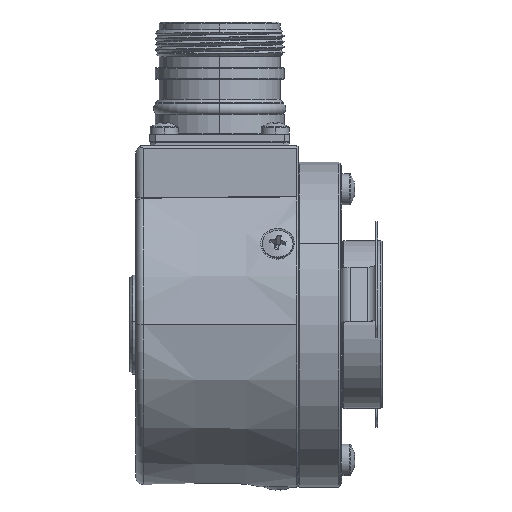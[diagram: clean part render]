
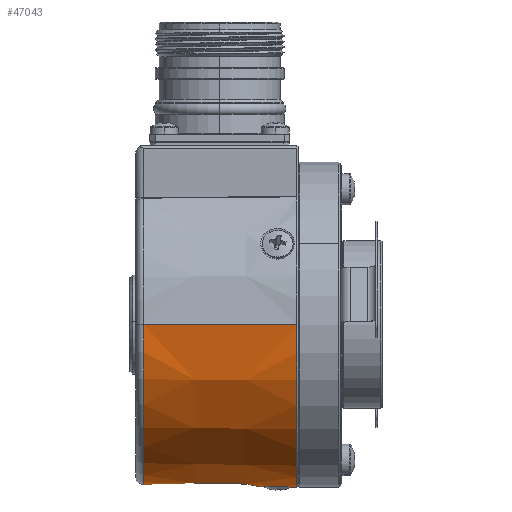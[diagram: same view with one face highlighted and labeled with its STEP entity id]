
A CAD part, left-side view. The second image highlights one B-rep face of the part: STEP entity #47043.
In plain terms, the highlighted conical face has half-angle 1 degrees and reference radius 28.565 mm.
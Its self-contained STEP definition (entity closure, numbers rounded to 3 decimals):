
#933 = EDGE_CURVE ( 'NONE', #23986, #3149, #32852, .T. ) ;
#1773 = VERTEX_POINT ( 'NONE', #10713 ) ;
#2409 = CARTESIAN_POINT ( 'NONE',  ( -2.115, 5.932, -28.891 ) ) ;
#2468 = ORIENTED_EDGE ( 'NONE', *, *, #16004, .T. ) ;
#2511 = CARTESIAN_POINT ( 'NONE',  ( 0., 29., 0. ) ) ;
#3099 = CARTESIAN_POINT ( 'NONE',  ( -1.613, 6.282, -28.917 ) ) ;
#3149 = VERTEX_POINT ( 'NONE', #60185 ) ;
#3430 = CARTESIAN_POINT ( 'NONE',  ( 0.998, 6.569, -28.942 ) ) ;
#3760 = AXIS2_PLACEMENT_3D ( 'NONE', #21811, #58587, #48194 ) ;
#3976 = CARTESIAN_POINT ( 'NONE',  ( 0.441, 0.674, -29.057 ) ) ;
#4656 = CARTESIAN_POINT ( 'NONE',  ( 3.189, 3.494, -28.834 ) ) ;
#7646 = FACE_BOUND ( 'NONE', #8154, .T. ) ;
#7890 = CARTESIAN_POINT ( 'NONE',  ( -3.059, 2.863, -28.86 ) ) ;
#8154 = EDGE_LOOP ( 'NONE', ( #26032, #58170 ) ) ;
#8754 = CARTESIAN_POINT ( 'NONE',  ( 2.404, 1.696, -28.942 ) ) ;
#8896 = CARTESIAN_POINT ( 'NONE',  ( -2.834, 2.308, -28.892 ) ) ;
#9099 = CARTESIAN_POINT ( 'NONE',  ( 1.053, 0.796, -29.041 ) ) ;
#9281 = CARTESIAN_POINT ( 'NONE',  ( 1.738, 6.2, -28.911 ) ) ;
#9450 = CARTESIAN_POINT ( 'NONE',  ( 3.187, 3.897, -28.828 ) ) ;
#9789 = CARTESIAN_POINT ( 'NONE',  ( -1.563, 1.038, -29.012 ) ) ;
#10118 = CARTESIAN_POINT ( 'NONE',  ( 3.073, 2.911, -28.857 ) ) ;
#10713 = CARTESIAN_POINT ( 'NONE',  ( -1.737, 1.146, -28.999 ) ) ;
#11771 = AXIS2_PLACEMENT_3D ( 'NONE', #54599, #27937, #12253 ) ;
#12253 = DIRECTION ( 'NONE',  ( 1., 0., 0. ) ) ;
#13031 = CARTESIAN_POINT ( 'NONE',  ( -2.085, 1.364, -28.975 ) ) ;
#13590 = CIRCLE ( 'NONE', #3760, 28.591 ) ;
#14318 = CARTESIAN_POINT ( 'NONE',  ( 29.068, 0.197, 0. ) ) ;
#14413 = CARTESIAN_POINT ( 'NONE',  ( -2.997, 2.673, -28.87 ) ) ;
#14529 = AXIS2_PLACEMENT_3D ( 'NONE', #2511, #33589, #60620 ) ;
#14599 = CARTESIAN_POINT ( 'NONE',  ( -0.997, 0.798, -29.041 ) ) ;
#14946 = CARTESIAN_POINT ( 'NONE',  ( -0.796, 0.742, -29.048 ) ) ;
#16004 = EDGE_CURVE ( 'NONE', #48041, #23986, #19661, .T. ) ;
#16743 = B_SPLINE_CURVE_WITH_KNOTS ( 'NONE', 3,
 ( #67260, #9789, #30934, #14599, #14946, #42028, #56594, #25386, #3976, #9099, #51390, #25730, #47230, #8754, #41330, #67944, #25036, #19819, #10118, #4656, #9450, #20499, #68275, #31265, #51034, #46870, #46197, #29908, #40989, #20845 ),
 .UNSPECIFIED., .F., .F.,
 ( 4, 2, 2, 2, 2, 2, 2, 2, 2, 2, 2, 2, 2, 2, 4 ),
 ( 0.998, 1.029, 1.06, 1.092, 1.123, 1.185, 1.217, 1.248, 1.279, 1.31, 1.373, 1.404, 1.435, 1.467, 1.498 ),
 .UNSPECIFIED. ) ;
#18266 = CARTESIAN_POINT ( 'NONE',  ( 1.389, 6.418, -28.928 ) ) ;
#18664 = EDGE_CURVE ( 'NONE', #25274, #3149, #55440, .T. ) ;
#18788 = ORIENTED_EDGE ( 'NONE', *, *, #18664, .F. ) ;
#19639 = CARTESIAN_POINT ( 'NONE',  ( -1.957, 6.058, -28.9 ) ) ;
#19661 = LINE ( 'NONE', #29400, #52339 ) ;
#19819 = CARTESIAN_POINT ( 'NONE',  ( 3.014, 2.723, -28.867 ) ) ;
#19955 = DIRECTION ( 'NONE',  ( -0.017, -1., 0. ) ) ;
#20499 = CARTESIAN_POINT ( 'NONE',  ( 3.06, 4.481, -28.831 ) ) ;
#20845 = CARTESIAN_POINT ( 'NONE',  ( 1.738, 6.2, -28.911 ) ) ;
#21811 = CARTESIAN_POINT ( 'NONE',  ( 0., 27.526, 0. ) ) ;
#22814 = EDGE_CURVE ( 'NONE', #25274, #48041, #13590, .T. ) ;
#23133 = CARTESIAN_POINT ( 'NONE',  ( 28.591, 27.526, 0. ) ) ;
#23790 = CARTESIAN_POINT ( 'NONE',  ( 0.183, 6.716, -28.956 ) ) ;
#23986 = VERTEX_POINT ( 'NONE', #14318 ) ;
#24118 = CARTESIAN_POINT ( 'NONE',  ( -3.151, 4.041, -28.829 ) ) ;
#25036 = CARTESIAN_POINT ( 'NONE',  ( 2.858, 2.355, -28.889 ) ) ;
#25274 = VERTEX_POINT ( 'NONE', #55907 ) ;
#25386 = CARTESIAN_POINT ( 'NONE',  ( 0.233, 0.653, -29.06 ) ) ;
#25730 = CARTESIAN_POINT ( 'NONE',  ( 1.953, 1.286, -28.984 ) ) ;
#26032 = ORIENTED_EDGE ( 'NONE', *, *, #46838, .T. ) ;
#27937 = DIRECTION ( 'NONE',  ( 0., 1., 0. ) ) ;
#28660 = CARTESIAN_POINT ( 'NONE',  ( -1.048, 6.532, -28.939 ) ) ;
#29400 = CARTESIAN_POINT ( 'NONE',  ( 28.565, 29., 0. ) ) ;
#29908 = CARTESIAN_POINT ( 'NONE',  ( 2.076, 5.965, -28.893 ) ) ;
#30804 = EDGE_LOOP ( 'NONE', ( #64389, #2468, #57088, #18788 ) ) ;
#30934 = CARTESIAN_POINT ( 'NONE',  ( -1.381, 0.946, -29.022 ) ) ;
#31265 = CARTESIAN_POINT ( 'NONE',  ( 2.837, 5.033, -28.844 ) ) ;
#32852 = CIRCLE ( 'NONE', #11771, 29.068 ) ;
#33589 = DIRECTION ( 'NONE',  ( 0., -1., 0. ) ) ;
#34173 = CARTESIAN_POINT ( 'NONE',  ( -1.737, 1.146, -28.999 ) ) ;
#35561 = CARTESIAN_POINT ( 'NONE',  ( -2.385, 1.646, -28.945 ) ) ;
#39403 = CARTESIAN_POINT ( 'NONE',  ( -3.17, 3.843, -28.83 ) ) ;
#40451 = CARTESIAN_POINT ( 'NONE',  ( -0.24, 6.713, -28.956 ) ) ;
#40792 = CARTESIAN_POINT ( 'NONE',  ( -2.536, 5.495, -28.864 ) ) ;
#40989 = CARTESIAN_POINT ( 'NONE',  ( 1.913, 6.091, -28.902 ) ) ;
#41330 = CARTESIAN_POINT ( 'NONE',  ( 2.534, 1.849, -28.928 ) ) ;
#42005 = B_SPLINE_CURVE_WITH_KNOTS ( 'NONE', 3,
 ( #67068, #18266, #3430, #23790, #40451, #66046, #28660, #61538, #3099, #19639, #2409, #61888, #40792, #44650, #55371, #24118, #39403, #60524, #45331, #7890, #14413, #8896, #51192, #35561, #13031, #34173 ),
 .UNSPECIFIED., .F., .F.,
 ( 4, 2, 2, 2, 2, 2, 2, 2, 2, 2, 2, 2, 4 ),
 ( 0.498, 0.56, 0.623, 0.654, 0.685, 0.717, 0.748, 0.81, 0.842, 0.873, 0.904, 0.935, 0.998 ),
 .UNSPECIFIED. ) ;
#42028 = CARTESIAN_POINT ( 'NONE',  ( -0.387, 0.668, -29.058 ) ) ;
#42367 = VERTEX_POINT ( 'NONE', #9281 ) ;
#44650 = CARTESIAN_POINT ( 'NONE',  ( -2.879, 4.997, -28.842 ) ) ;
#45331 = CARTESIAN_POINT ( 'NONE',  ( -3.144, 3.25, -28.844 ) ) ;
#46037 = VECTOR ( 'NONE', #19955, 1000. ) ;
#46197 = CARTESIAN_POINT ( 'NONE',  ( 2.371, 5.688, -28.875 ) ) ;
#46838 = EDGE_CURVE ( 'NONE', #1773, #42367, #16743, .T. ) ;
#46870 = CARTESIAN_POINT ( 'NONE',  ( 2.503, 5.537, -28.866 ) ) ;
#47043 = ADVANCED_FACE ( 'NONE', ( #7646, #59920 ), #55491, .T. ) ;
#47230 = CARTESIAN_POINT ( 'NONE',  ( 2.113, 1.413, -28.97 ) ) ;
#48041 = VERTEX_POINT ( 'NONE', #23133 ) ;
#48194 = DIRECTION ( 'NONE',  ( 1., 0., 0. ) ) ;
#51034 = CARTESIAN_POINT ( 'NONE',  ( 2.737, 5.208, -28.851 ) ) ;
#51192 = CARTESIAN_POINT ( 'NONE',  ( -2.735, 2.136, -28.905 ) ) ;
#51390 = CARTESIAN_POINT ( 'NONE',  ( 1.439, 0.952, -29.021 ) ) ;
#51920 = DIRECTION ( 'NONE',  ( 0.017, -1., 0. ) ) ;
#52339 = VECTOR ( 'NONE', #51920, 1000. ) ;
#52917 = EDGE_CURVE ( 'NONE', #42367, #1773, #42005, .T. ) ;
#54599 = CARTESIAN_POINT ( 'NONE',  ( 0., 0.197, 0. ) ) ;
#55371 = CARTESIAN_POINT ( 'NONE',  ( -3.036, 4.625, -28.831 ) ) ;
#55440 = LINE ( 'NONE', #66106, #46037 ) ;
#55491 = CONICAL_SURFACE ( 'NONE', #14529, 28.565, 0.017 ) ;
#55907 = CARTESIAN_POINT ( 'NONE',  ( -28.591, 27.526, 0. ) ) ;
#56594 = CARTESIAN_POINT ( 'NONE',  ( -0.181, 0.65, -29.06 ) ) ;
#57088 = ORIENTED_EDGE ( 'NONE', *, *, #933, .T. ) ;
#58170 = ORIENTED_EDGE ( 'NONE', *, *, #52917, .T. ) ;
#58587 = DIRECTION ( 'NONE',  ( 0., -1., 0. ) ) ;
#59920 = FACE_OUTER_BOUND ( 'NONE', #30804, .T. ) ;
#60185 = CARTESIAN_POINT ( 'NONE',  ( -29.068, 0.197, 0. ) ) ;
#60524 = CARTESIAN_POINT ( 'NONE',  ( -3.166, 3.446, -28.838 ) ) ;
#60620 = DIRECTION ( 'NONE',  ( -1., 0., 0. ) ) ;
#61538 = CARTESIAN_POINT ( 'NONE',  ( -1.43, 6.377, -28.925 ) ) ;
#61888 = CARTESIAN_POINT ( 'NONE',  ( -2.405, 5.65, -28.873 ) ) ;
#64389 = ORIENTED_EDGE ( 'NONE', *, *, #22814, .T. ) ;
#66046 = CARTESIAN_POINT ( 'NONE',  ( -0.851, 6.591, -28.944 ) ) ;
#66106 = CARTESIAN_POINT ( 'NONE',  ( -28.565, 29., 0. ) ) ;
#67068 = CARTESIAN_POINT ( 'NONE',  ( 1.738, 6.2, -28.911 ) ) ;
#67260 = CARTESIAN_POINT ( 'NONE',  ( -1.737, 1.146, -28.999 ) ) ;
#67944 = CARTESIAN_POINT ( 'NONE',  ( 2.761, 2.178, -28.902 ) ) ;
#68275 = CARTESIAN_POINT ( 'NONE',  ( 2.999, 4.668, -28.834 ) ) ;
